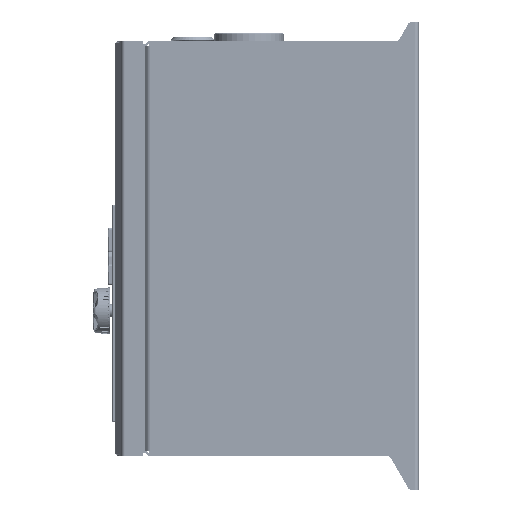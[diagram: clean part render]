
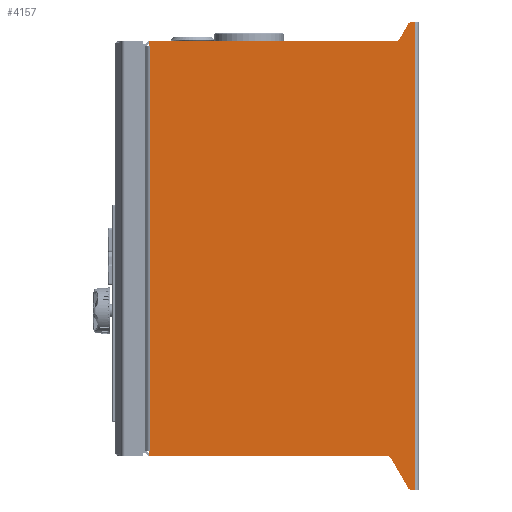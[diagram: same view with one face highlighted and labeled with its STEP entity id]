
A CAD part, left-side view. The second image highlights one B-rep face of the part: STEP entity #4157.
In plain terms, the highlighted planar face has unit normal (-1, 0, 0).
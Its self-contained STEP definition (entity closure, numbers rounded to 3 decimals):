
#4157=ADVANCED_FACE('',(#70929),#70931,.T.);
#70929=FACE_BOUND('',#70930,.T.);
#70930=EDGE_LOOP('',(#166494,#166495,#166496,#166497,#166498,#166499,#166500,#166501,
#166502,#166503,#166504,#166505,#166506,#166507,#166508,#166509));
#70931=PLANE('',#70932);
#70932=AXIS2_PLACEMENT_3D('',#70933,#70934,#70935);
#70933=CARTESIAN_POINT('',(-55.,144.3,-125.));
#70934=DIRECTION('',(-1.,0.,0.));
#70935=DIRECTION('',(0.,-1.,0.));
#166494=ORIENTED_EDGE('',*,*,#205220,.F.);
#166495=ORIENTED_EDGE('',*,*,#205221,.T.);
#166496=ORIENTED_EDGE('',*,*,#205222,.F.);
#166497=ORIENTED_EDGE('',*,*,#205223,.F.);
#166498=ORIENTED_EDGE('',*,*,#205224,.F.);
#166499=ORIENTED_EDGE('',*,*,#205225,.F.);
#166500=ORIENTED_EDGE('',*,*,#205226,.T.);
#166501=ORIENTED_EDGE('',*,*,#205227,.F.);
#166502=ORIENTED_EDGE('',*,*,#205228,.T.);
#166503=ORIENTED_EDGE('',*,*,#205229,.T.);
#166504=ORIENTED_EDGE('',*,*,#205230,.F.);
#166505=ORIENTED_EDGE('',*,*,#205231,.T.);
#166506=ORIENTED_EDGE('',*,*,#205232,.T.);
#166507=ORIENTED_EDGE('',*,*,#205196,.T.);
#166508=ORIENTED_EDGE('',*,*,#205233,.F.);
#166509=ORIENTED_EDGE('',*,*,#205219,.T.);
#205196=EDGE_CURVE('',#224435,#224432,#224436,.T.);
#205219=EDGE_CURVE('',#224472,#224474,#224476,.T.);
#205220=EDGE_CURVE('',#224477,#224474,#224478,.T.);
#205221=EDGE_CURVE('',#224477,#224479,#224480,.T.);
#205222=EDGE_CURVE('',#224481,#224479,#224482,.T.);
#205223=EDGE_CURVE('',#224483,#224481,#224484,.T.);
#205224=EDGE_CURVE('',#224485,#224483,#224486,.T.);
#205225=EDGE_CURVE('',#224487,#224485,#224488,.T.);
#205226=EDGE_CURVE('',#224487,#224489,#224490,.T.);
#205227=EDGE_CURVE('',#224491,#224489,#224492,.T.);
#205228=EDGE_CURVE('',#224491,#224493,#224494,.T.);
#205229=EDGE_CURVE('',#224493,#224495,#224496,.T.);
#205230=EDGE_CURVE('',#224497,#224495,#224498,.T.);
#205231=EDGE_CURVE('',#224497,#224499,#224500,.T.);
#205232=EDGE_CURVE('',#224499,#224435,#224501,.T.);
#205233=EDGE_CURVE('',#224472,#224432,#224502,.T.);
#224432=VERTEX_POINT('',#256195);
#224435=VERTEX_POINT('',#256203);
#224436=LINE('',#256204,#256205);
#224472=VERTEX_POINT('',#256288);
#224474=VERTEX_POINT('',#256292);
#224476=CIRCLE('',#256296,2.);
#224477=VERTEX_POINT('',#256300);
#224478=LINE('',#256301,#256302);
#224479=VERTEX_POINT('',#256304);
#224480=CIRCLE('',#256305,2.);
#224481=VERTEX_POINT('',#256309);
#224482=LINE('',#256310,#256311);
#224483=VERTEX_POINT('',#256313);
#224484=LINE('',#256314,#256315);
#224485=VERTEX_POINT('',#256317);
#224486=LINE('',#256318,#256319);
#224487=VERTEX_POINT('',#256321);
#224488=LINE('',#256322,#256323);
#224489=VERTEX_POINT('',#256325);
#224490=LINE('',#256326,#256327);
#224491=VERTEX_POINT('',#256329);
#224492=LINE('',#256330,#256331);
#224493=VERTEX_POINT('',#256333);
#224494=LINE('',#256334,#256335);
#224495=VERTEX_POINT('',#256337);
#224496=CIRCLE('',#256338,2.);
#224497=VERTEX_POINT('',#256342);
#224498=LINE('',#256343,#256344);
#224499=VERTEX_POINT('',#256346);
#224500=CIRCLE('',#256347,2.);
#224501=LINE('',#256351,#256352);
#224502=LINE('',#256354,#256355);
#256195=CARTESIAN_POINT('',(-55.,2.2,125.));
#256203=CARTESIAN_POINT('',(-55.,2.2,-125.));
#256204=CARTESIAN_POINT('',(-55.,2.2,-125.));
#256205=VECTOR('',#256206,1.);
#256206=DIRECTION('',(0.,0.,1.));
#256288=CARTESIAN_POINT('',(-55.,3.845,125.));
#256292=CARTESIAN_POINT('',(-55.,5.577,124.));
#256296=AXIS2_PLACEMENT_3D('',#256297,#256298,#256299);
#256297=CARTESIAN_POINT('',(-55.,3.845,123.));
#256298=DIRECTION('',(-1.,0.,0.));
#256299=DIRECTION('',(0.,0.,1.));
#256300=CARTESIAN_POINT('',(-55.,10.196,116.));
#256301=CARTESIAN_POINT('',(-55.,10.196,116.));
#256302=VECTOR('',#256303,1.);
#256303=DIRECTION('',(0.,-0.5,0.866));
#256304=CARTESIAN_POINT('',(-55.,11.928,115.));
#256305=AXIS2_PLACEMENT_3D('',#256306,#256307,#256308);
#256306=CARTESIAN_POINT('',(-55.,11.928,117.));
#256307=DIRECTION('',(1.,0.,0.));
#256308=DIRECTION('',(0.,-0.866,-0.5));
#256309=CARTESIAN_POINT('',(-55.,144.3,115.));
#256310=CARTESIAN_POINT('',(-55.,144.3,115.));
#256311=VECTOR('',#256312,1.);
#256312=DIRECTION('',(0.,-1.,0.));
#256313=CARTESIAN_POINT('',(-55.,144.3,112.));
#256314=CARTESIAN_POINT('',(-55.,144.3,112.));
#256315=VECTOR('',#256316,1.);
#256316=DIRECTION('',(0.,0.,1.));
#256317=CARTESIAN_POINT('',(-55.,143.389,112.));
#256318=CARTESIAN_POINT('',(-55.,143.389,112.));
#256319=VECTOR('',#256320,1.);
#256320=DIRECTION('',(0.,1.,0.));
#256321=CARTESIAN_POINT('',(-55.,143.389,-104.));
#256322=CARTESIAN_POINT('',(-55.,143.389,-104.));
#256323=VECTOR('',#256324,1.);
#256324=DIRECTION('',(0.,0.,1.));
#256325=CARTESIAN_POINT('',(-55.,144.3,-104.));
#256326=CARTESIAN_POINT('',(-55.,143.389,-104.));
#256327=VECTOR('',#256328,1.);
#256328=DIRECTION('',(0.,1.,0.));
#256329=CARTESIAN_POINT('',(-55.,144.3,-107.));
#256330=CARTESIAN_POINT('',(-55.,144.3,-107.));
#256331=VECTOR('',#256332,1.);
#256332=DIRECTION('',(0.,0.,1.));
#256333=CARTESIAN_POINT('',(-55.,16.547,-107.));
#256334=CARTESIAN_POINT('',(-55.,144.3,-107.));
#256335=VECTOR('',#256336,1.);
#256336=DIRECTION('',(0.,-1.,0.));
#256337=CARTESIAN_POINT('',(-55.,14.815,-108.));
#256338=AXIS2_PLACEMENT_3D('',#256339,#256340,#256341);
#256339=CARTESIAN_POINT('',(-55.,16.547,-109.));
#256340=DIRECTION('',(1.,0.,0.));
#256341=DIRECTION('',(0.,0.,1.));
#256342=CARTESIAN_POINT('',(-55.,5.577,-124.));
#256343=CARTESIAN_POINT('',(-55.,5.577,-124.));
#256344=VECTOR('',#256345,1.);
#256345=DIRECTION('',(0.,0.5,0.866));
#256346=CARTESIAN_POINT('',(-55.,3.845,-125.));
#256347=AXIS2_PLACEMENT_3D('',#256348,#256349,#256350);
#256348=CARTESIAN_POINT('',(-55.,3.845,-123.));
#256349=DIRECTION('',(-1.,0.,0.));
#256350=DIRECTION('',(0.,0.866,-0.5));
#256351=CARTESIAN_POINT('',(-55.,3.845,-125.));
#256352=VECTOR('',#256353,1.);
#256353=DIRECTION('',(0.,-1.,0.));
#256354=CARTESIAN_POINT('',(-55.,3.845,125.));
#256355=VECTOR('',#256356,1.);
#256356=DIRECTION('',(0.,-1.,0.));
